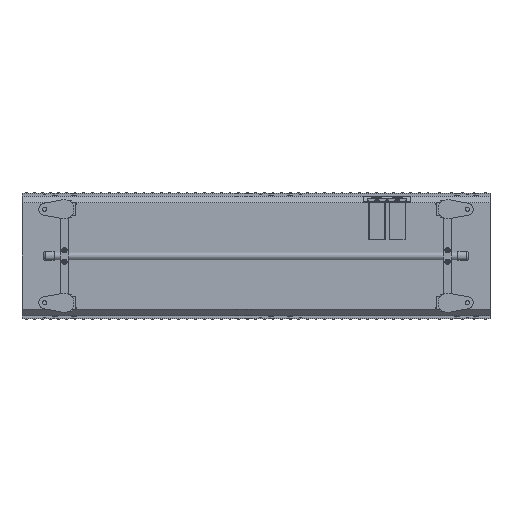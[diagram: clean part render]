
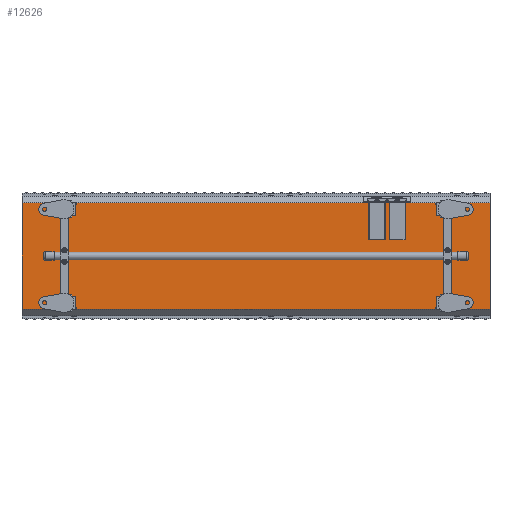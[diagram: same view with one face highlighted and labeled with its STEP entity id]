
A CAD part, front view. The second image highlights one B-rep face of the part: STEP entity #12626.
In plain terms, the highlighted planar face has unit normal (0, -1, 0).
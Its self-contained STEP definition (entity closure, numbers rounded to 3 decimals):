
#2440 = DIRECTION ( 'NONE',  ( 0., 1., 0. ) ) ;
#3535 = VERTEX_POINT ( 'NONE', #30368 ) ;
#5433 = DIRECTION ( 'NONE',  ( 0., 0., 1. ) ) ;
#7096 = VECTOR ( 'NONE', #5433, 1000. ) ;
#8426 = CARTESIAN_POINT ( 'NONE',  ( 1929.709, -215.213, 169.787 ) ) ;
#11233 = LINE ( 'NONE', #22942, #7096 ) ;
#11709 = LINE ( 'NONE', #8426, #19236 ) ;
#11916 = LINE ( 'NONE', #14760, #50399 ) ;
#12626 = ADVANCED_FACE ( 'NONE', ( #47245 ), #55684, .F. ) ;
#14242 = ORIENTED_EDGE ( 'NONE', *, *, #55766, .T. ) ;
#14760 = CARTESIAN_POINT ( 'NONE',  ( 1490., -215.213, -169.787 ) ) ;
#19236 = VECTOR ( 'NONE', #45852, 1000. ) ;
#19578 = VECTOR ( 'NONE', #66323, 1000. ) ;
#22942 = CARTESIAN_POINT ( 'NONE',  ( 1490., -215.213, 169.787 ) ) ;
#24445 = CARTESIAN_POINT ( 'NONE',  ( 0., -215.213, 169.787 ) ) ;
#24832 = CARTESIAN_POINT ( 'NONE',  ( 1490., -215.213, -169.787 ) ) ;
#28951 = CARTESIAN_POINT ( 'NONE',  ( 0., -215.213, 169.787 ) ) ;
#30368 = CARTESIAN_POINT ( 'NONE',  ( 0., -215.213, -169.787 ) ) ;
#34104 = EDGE_LOOP ( 'NONE', ( #44156, #38147, #14242, #39136 ) ) ;
#34214 = DIRECTION ( 'NONE',  ( 0., 0., 1. ) ) ;
#34454 = AXIS2_PLACEMENT_3D ( 'NONE', #60359, #2440, #34214 ) ;
#35315 = DIRECTION ( 'NONE',  ( -1., 0., 0. ) ) ;
#36155 = VERTEX_POINT ( 'NONE', #42639 ) ;
#38147 = ORIENTED_EDGE ( 'NONE', *, *, #59023, .T. ) ;
#39136 = ORIENTED_EDGE ( 'NONE', *, *, #53959, .T. ) ;
#40355 = VERTEX_POINT ( 'NONE', #24832 ) ;
#42639 = CARTESIAN_POINT ( 'NONE',  ( 1490., -215.213, 169.787 ) ) ;
#44156 = ORIENTED_EDGE ( 'NONE', *, *, #59760, .F. ) ;
#45852 = DIRECTION ( 'NONE',  ( -1., 0., 0. ) ) ;
#47245 = FACE_OUTER_BOUND ( 'NONE', #34104, .T. ) ;
#48986 = VERTEX_POINT ( 'NONE', #24445 ) ;
#49664 = LINE ( 'NONE', #28951, #19578 ) ;
#50399 = VECTOR ( 'NONE', #35315, 1000. ) ;
#53959 = EDGE_CURVE ( 'NONE', #48986, #3535, #49664, .T. ) ;
#55684 = PLANE ( 'NONE',  #34454 ) ;
#55766 = EDGE_CURVE ( 'NONE', #36155, #48986, #11709, .T. ) ;
#59023 = EDGE_CURVE ( 'NONE', #40355, #36155, #11233, .T. ) ;
#59760 = EDGE_CURVE ( 'NONE', #40355, #3535, #11916, .T. ) ;
#60359 = CARTESIAN_POINT ( 'NONE',  ( 1929.709, -215.213, 169.787 ) ) ;
#66323 = DIRECTION ( 'NONE',  ( 0., 0., -1. ) ) ;
